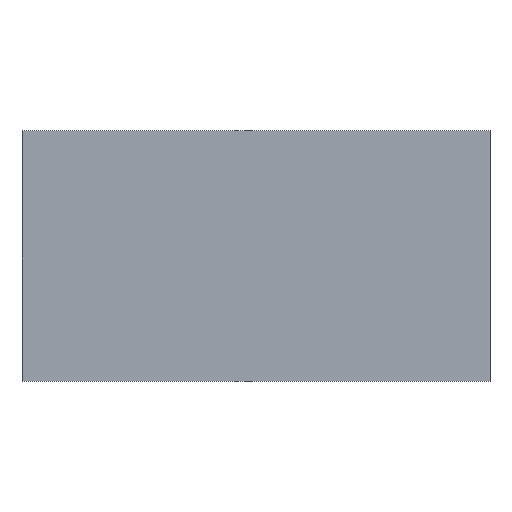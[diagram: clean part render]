
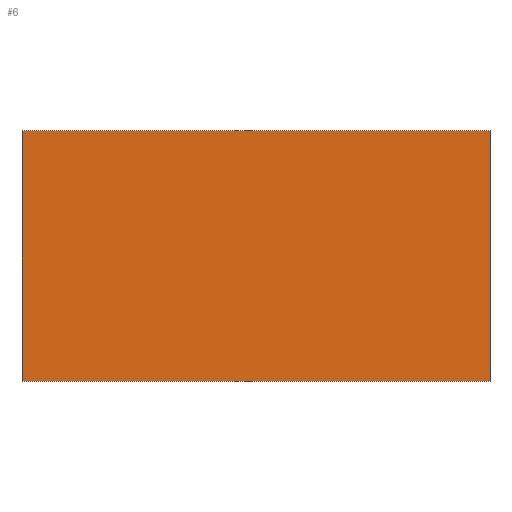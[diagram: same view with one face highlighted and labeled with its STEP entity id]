
A CAD part, top view. The second image highlights one B-rep face of the part: STEP entity #6.
In plain terms, the highlighted planar face has unit normal (0, 0, 1).
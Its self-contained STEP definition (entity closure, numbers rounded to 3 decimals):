
#6 = ADVANCED_FACE ( 'NONE', ( #189 ), #69, .F. ) ;
#15 = EDGE_CURVE ( 'NONE', #45, #48, #158, .T. ) ;
#20 = EDGE_CURVE ( 'NONE', #49, #45, #168, .T. ) ;
#22 = EDGE_CURVE ( 'NONE', #47, #49, #171, .T. ) ;
#33 = AXIS2_PLACEMENT_3D ( 'NONE', #112, #109, #102 ) ;
#38 = EDGE_CURVE ( 'NONE', #48, #47, #139, .T. ) ;
#45 = VERTEX_POINT ( 'NONE', #123 ) ;
#47 = VERTEX_POINT ( 'NONE', #125 ) ;
#48 = VERTEX_POINT ( 'NONE', #64 ) ;
#49 = VERTEX_POINT ( 'NONE', #126 ) ;
#64 = CARTESIAN_POINT ( 'NONE',  ( 401., 429., 6. ) ) ;
#66 = DIRECTION ( 'NONE',  ( -1., 0., 0. ) ) ;
#69 = PLANE ( 'NONE',  #33 ) ;
#70 = DIRECTION ( 'NONE',  ( 0., -1., 0. ) ) ;
#92 = CARTESIAN_POINT ( 'NONE',  ( 401., 0., 6. ) ) ;
#94 = DIRECTION ( 'NONE',  ( 0., 1., 0. ) ) ;
#95 = CARTESIAN_POINT ( 'NONE',  ( -401., 0., 6. ) ) ;
#102 = DIRECTION ( 'NONE',  ( 0., 1., 0. ) ) ;
#109 = DIRECTION ( 'NONE',  ( 0., 0., -1. ) ) ;
#110 = DIRECTION ( 'NONE',  ( 1., 0., 0. ) ) ;
#112 = CARTESIAN_POINT ( 'NONE',  ( -401., 429., 6. ) ) ;
#116 = CARTESIAN_POINT ( 'NONE',  ( -401., 0., 6. ) ) ;
#120 = CARTESIAN_POINT ( 'NONE',  ( -401., 429., 6. ) ) ;
#123 = CARTESIAN_POINT ( 'NONE',  ( 401., 0., 6. ) ) ;
#125 = CARTESIAN_POINT ( 'NONE',  ( -401., 429., 6. ) ) ;
#126 = CARTESIAN_POINT ( 'NONE',  ( -401., 0., 6. ) ) ;
#139 = LINE ( 'NONE', #120, #154 ) ;
#140 = VECTOR ( 'NONE', #110, 1000. ) ;
#154 = VECTOR ( 'NONE', #66, 1000. ) ;
#158 = LINE ( 'NONE', #92, #177 ) ;
#159 = ORIENTED_EDGE ( 'NONE', *, *, #38, .T. ) ;
#160 = EDGE_LOOP ( 'NONE', ( #165, #163, #192, #159 ) ) ;
#163 = ORIENTED_EDGE ( 'NONE', *, *, #20, .T. ) ;
#165 = ORIENTED_EDGE ( 'NONE', *, *, #22, .T. ) ;
#168 = LINE ( 'NONE', #95, #140 ) ;
#170 = VECTOR ( 'NONE', #70, 1000. ) ;
#171 = LINE ( 'NONE', #116, #170 ) ;
#177 = VECTOR ( 'NONE', #94, 1000. ) ;
#189 = FACE_OUTER_BOUND ( 'NONE', #160, .T. ) ;
#192 = ORIENTED_EDGE ( 'NONE', *, *, #15, .T. ) ;
